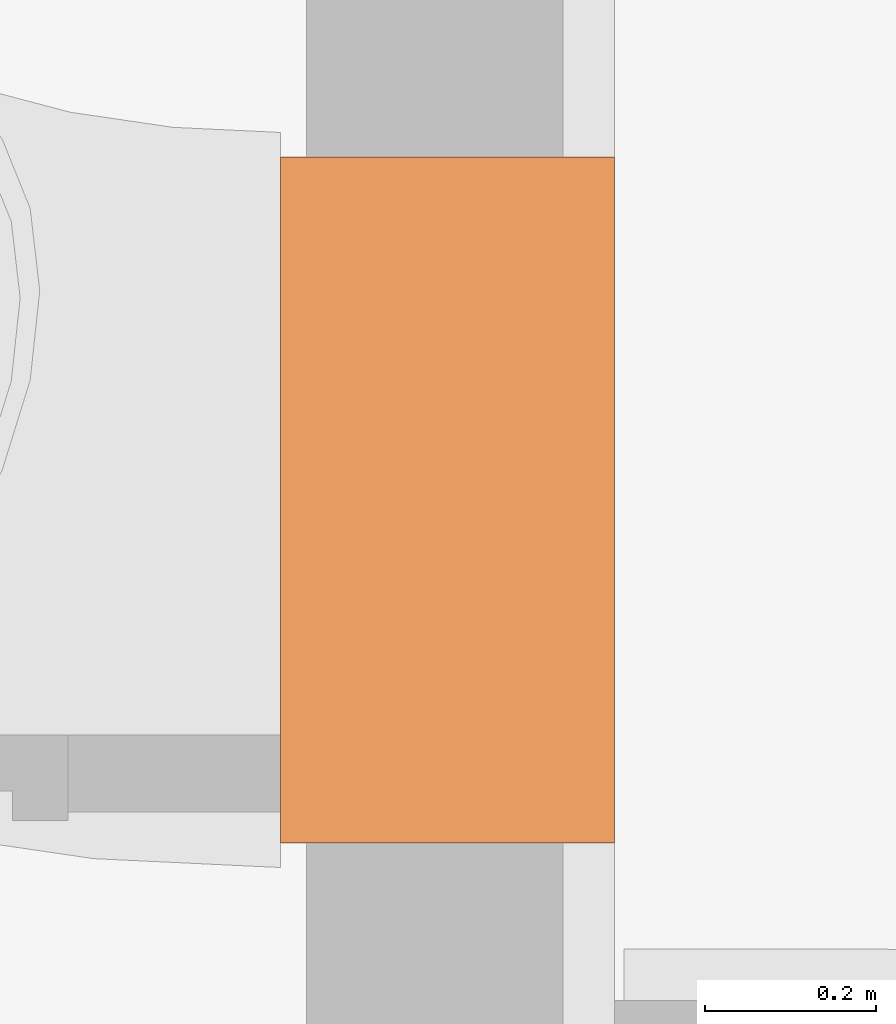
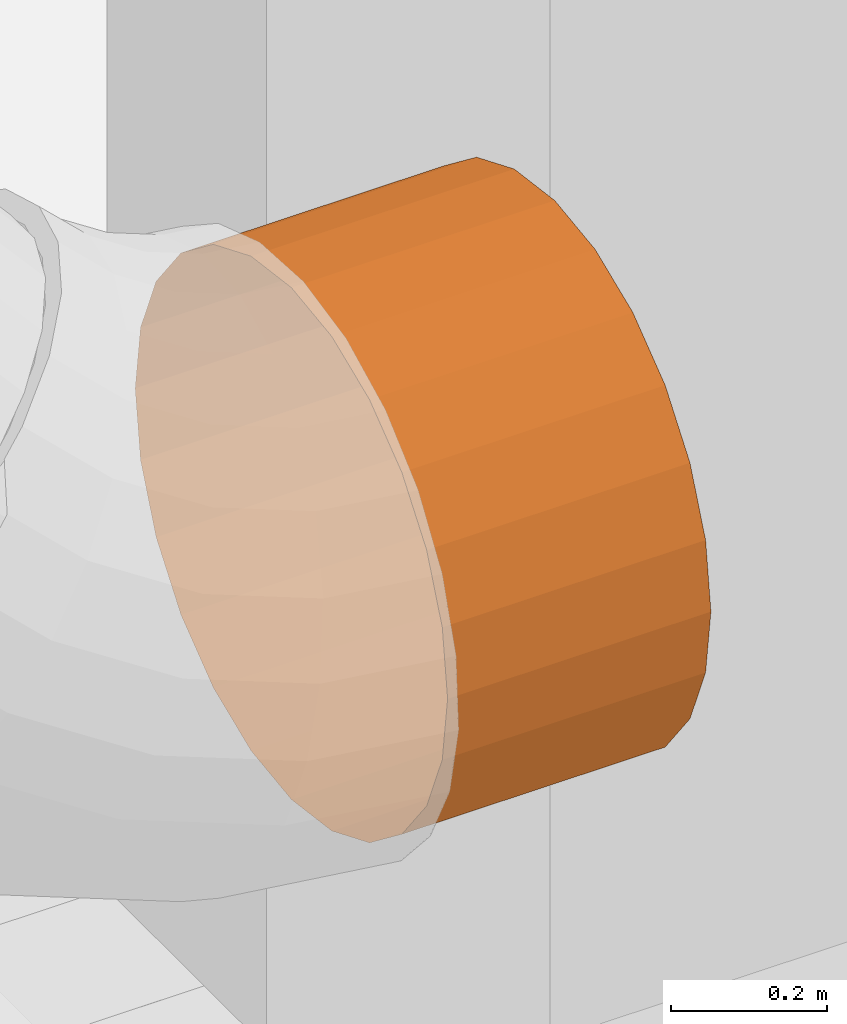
# One storey, part 294 of 301: 1 proxy.
"""IFC2X3 building model written with IfcOpenShell, lengths in millimetres."""

from ifc_helpers import new_model, entity, si_unit, converted_unit, derived_unit, money_unit, direction, frame, origin_with_axes, place, context, subcontext, project, spatial, open_shell, surface_model, type_object, element, save


model = new_model("IFC2X3")

# Units and contexts
model_context = context("Model", 3, precision=0.01, world=origin_with_axes(), true_north=direction((0.0, 1.0)))
body_context = subcontext(model_context, "Body", "Model", "MODEL_VIEW")
ifc_project = project(units=[si_unit("LENGTHUNIT", "METRE", prefix="MILLI"), si_unit("AREAUNIT", "SQUARE_METRE"), si_unit("VOLUMEUNIT", "CUBIC_METRE"), converted_unit("PLANEANGLEUNIT", "DEGREE", entity("IfcPlaneAngleMeasure", 0.0174532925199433), si_unit("PLANEANGLEUNIT", "RADIAN"), dimensions=[0, 0, 0, 0, 0, 0, 0]), money_unit("EUR"), converted_unit("TIMEUNIT", "Year", entity("IfcTimeMeasure", 31557600.0), si_unit("TIMEUNIT", "SECOND"), dimensions=[0, 0, 1, 0, 0, 0, 0]), si_unit("MASSUNIT", "GRAM", prefix="KILO"), si_unit("THERMODYNAMICTEMPERATUREUNIT", "DEGREE_CELSIUS"), si_unit("LUMINOUSINTENSITYUNIT", "LUMEN"), si_unit("ENERGYUNIT", "JOULE", prefix="MEGA"), derived_unit("THERMALCONDUCTANCEUNIT", [(si_unit("POWERUNIT", "WATT"), 1), (si_unit("LENGTHUNIT", "METRE"), -1), (si_unit("THERMODYNAMICTEMPERATUREUNIT", "KELVIN"), -1)]), derived_unit("SPECIFICHEATCAPACITYUNIT", [(si_unit("ENERGYUNIT", "JOULE"), 1), (si_unit("MASSUNIT", "GRAM", prefix="KILO"), -1), (si_unit("THERMODYNAMICTEMPERATUREUNIT", "KELVIN"), -1)]), derived_unit("MASSDENSITYUNIT", [(si_unit("MASSUNIT", "GRAM", prefix="KILO"), 1), (si_unit("VOLUMEUNIT", "CUBIC_METRE"), -1)])], contexts=[model_context])

# Site, building, storey
site_placement = place(None, frame((0.0, 0.0, 8650.0), z_axis=(0.0, 0.0, 1.0), x_axis=(1.0, 0.0, 0.0)))
site = spatial("IfcSite", under=ifc_project, at=site_placement, Name="43301:001:0844", CompositionType="ELEMENT")
building_placement = place(site_placement, origin_with_axes())
building = spatial("IfcBuilding", under=site, at=building_placement, Name="Kuressaare Ametikooli tuulikute mehaanikute õppekorpus", CompositionType="ELEMENT")
storey_placement = place(building_placement, origin_with_axes())
storey = spatial("IfcBuildingStorey", under=building, at=storey_placement, Name="1.korrus", CompositionType="ELEMENT", Elevation=0.0)

# Proxy
building_element_proxy_type = type_object("IfcBuildingElementProxyType", Name="IfcBuildingElementProxy", PredefinedType="NOTDEFINED")
proxy_placement = place(storey_placement, frame((87868.49002509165, 49135.58578491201, 4375.02569757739), z_axis=(1.0, 0.0, 0.0), x_axis=(0.0, 1.0, 0.0)))
element("IfcBuildingElementProxy", 1, at=proxy_placement, inside=storey, type_object=building_element_proxy_type, context=body_context, shape_type="SurfaceModel", body=[
    surface_model("IfcShellBasedSurfaceModel", [(0.0, -400.9999999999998, 0.0), (103.7864370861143, -387.3362563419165, 0.0), (103.7864370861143, -387.3362563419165, 390.2664217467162), (0.0, -400.9999999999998, 390.2664217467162), (200.4999999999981, -347.2761869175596, 0.0), (200.4999999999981, -347.2761869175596, 390.2664217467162), (-103.7864370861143, -387.3362563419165, 0.0), (-103.7864370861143, -387.3362563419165, 390.2664217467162), (283.5498192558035, -283.5498192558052, 0.0), (283.5498192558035, -283.5498192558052, 390.2664217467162), (-200.4999999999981, -347.2761869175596, 0.0), (-200.4999999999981, -347.2761869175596, 390.2664217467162), (347.2761869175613, -200.4999999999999, 0.0), (347.2761869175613, -200.4999999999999, 390.2664217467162), (-283.5498192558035, -283.5498192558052, 0.0), (-283.5498192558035, -283.5498192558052, 390.2664217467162), (387.3362563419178, -103.7864370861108, 0.0), (387.3362563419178, -103.7864370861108, 390.2664217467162), (-347.2761869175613, -200.4999999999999, 0.0), (-347.2761869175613, -200.4999999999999, 390.2664217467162), (401.0000000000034, 0.0, 0.0), (401.0000000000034, 0.0, 390.2664217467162), (-387.3362563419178, -103.7864370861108, 0.0), (-387.3362563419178, -103.7864370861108, 390.2664217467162), (387.3362563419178, 103.7864370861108, 0.0), (387.3362563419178, 103.7864370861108, 390.2664217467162), (-401.0000000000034, 0.0, 0.0), (-401.0000000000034, 0.0, 390.2664217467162), (347.2761869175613, 200.4999999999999, 0.0), (347.2761869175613, 200.4999999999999, 390.2664217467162), (-387.3362563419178, 103.7864370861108, 0.0), (-387.3362563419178, 103.7864370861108, 390.2664217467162), (283.5498192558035, 283.5498192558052, 0.0), (283.5498192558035, 283.5498192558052, 390.2664217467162), (-347.2761869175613, 200.4999999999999, 0.0), (-347.2761869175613, 200.4999999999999, 390.2664217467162), (200.4999999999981, 347.2761869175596, 0.0), (200.4999999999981, 347.2761869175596, 390.2664217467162), (-283.5498192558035, 283.5498192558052, 0.0), (-283.5498192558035, 283.5498192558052, 390.2664217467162), (103.7864370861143, 387.3362563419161, 0.0), (103.7864370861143, 387.3362563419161, 390.2664217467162), (-200.4999999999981, 347.2761869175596, 0.0), (-200.4999999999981, 347.2761869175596, 390.2664217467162), (0.0, 400.9999999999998, 0.0), (0.0, 400.9999999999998, 390.2664217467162), (-103.7864370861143, 387.3362563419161, 0.0), (-103.7864370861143, 387.3362563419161, 390.2664217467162)], [open_shell([[[0, 1, 2, 3]], [[1, 4, 5, 2]], [[6, 0, 3, 7]], [[4, 8, 9, 5]], [[10, 6, 7, 11]], [[8, 12, 13, 9]], [[14, 10, 11, 15]], [[12, 16, 17, 13]], [[18, 14, 15, 19]], [[16, 20, 21, 17]], [[22, 18, 19, 23]], [[20, 24, 25, 21]], [[26, 22, 23, 27]], [[24, 28, 29, 25]], [[30, 26, 27, 31]], [[28, 32, 33, 29]], [[34, 30, 31, 35]], [[32, 36, 37, 33]], [[38, 34, 35, 39]], [[36, 40, 41, 37]], [[42, 38, 39, 43]], [[40, 44, 45, 41]], [[46, 42, 43, 47]], [[44, 46, 47, 45]]])]),
])

save(model, "model.ifc")
